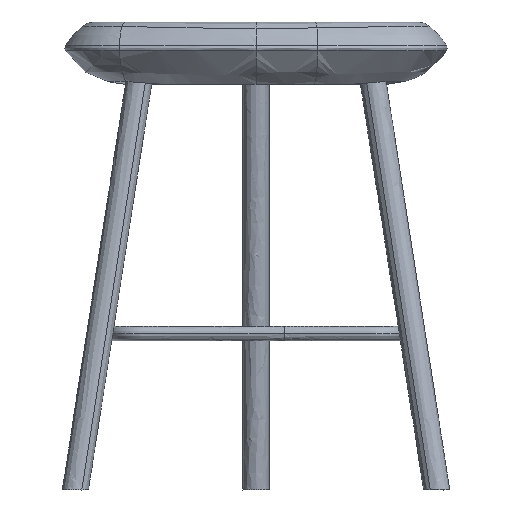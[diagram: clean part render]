
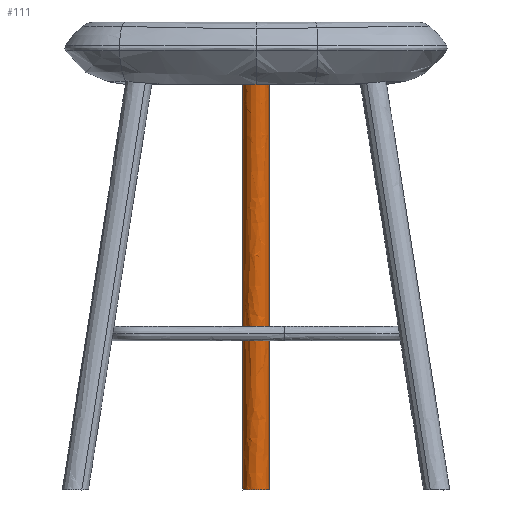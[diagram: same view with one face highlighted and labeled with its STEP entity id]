
A CAD part, front view. The second image highlights one B-rep face of the part: STEP entity #111.
In plain terms, the highlighted free-form (B-spline) face has degree [3, 2] with [4, 5] control points.
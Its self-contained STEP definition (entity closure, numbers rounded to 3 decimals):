
#40=B_SPLINE_CURVE_WITH_KNOTS($,3,(#3420,#3421,#3422,#3423,#3424,#3425,#3426,
#3427,#3428,#3429,#3430,#3431,#3432,#3433,#3434,#3435,#3436,#3437,#3438,
#3439,#3440,#3441,#3442,#3443,#3444,#3445,#3446,#3447,#3448,#3449,#3450,
#3451,#3452,#3453,#3454,#3455,#3456,#3457),.UNSPECIFIED.,.F.,.F.,(4,2,2,
2,2,2,2,2,2,2,2,2,2,2,2,2,2,2,4),(-79.169,-76.701,-74.23,
-71.757,-69.281,-66.808,-64.334,-61.855,
-60.614,-59.373,-56.903,-54.432,
-51.957,-49.48,-47.012,-44.541,
-42.068,-39.592,-39.589),.UNSPECIFIED.);
#41=B_SPLINE_CURVE_WITH_KNOTS($,3,(#3466,#3467,#3468,#3469,#3470,#3471,#3472,
#3473,#3474,#3475,#3476,#3477,#3478,#3479,#3480,#3481,#3482,#3483,#3484,
#3485,#3486,#3487,#3488,#3489,#3490,#3491,#3492,#3493,#3494,#3495,#3496,
#3497,#3498,#3499,#3500,#3501,#3502,#3503),.UNSPECIFIED.,.F.,.F.,(4,2,2,
2,2,2,2,2,2,2,2,2,2,2,2,2,2,2,4),(39.589,39.592,42.069,
44.541,47.012,49.48,51.957,54.431,
56.902,59.37,60.611,61.851,64.328,
66.8,69.27,71.749,74.225,76.699,
79.169),.UNSPECIFIED.);
#111=ADVANCED_FACE($,(#186),#883,.T.);
#186=FACE_OUTER_BOUND($,#261,.T.);
#261=EDGE_LOOP($,(#377,#378,#379,#380));
#377=ORIENTED_EDGE($,*,*,#657,.T.);
#378=ORIENTED_EDGE($,*,*,#655,.T.);
#379=ORIENTED_EDGE($,*,*,#654,.T.);
#380=ORIENTED_EDGE($,*,*,#656,.F.);
#654=EDGE_CURVE($,#799,#801,#40,.T.);
#655=EDGE_CURVE($,#798,#799,#945,.T.);
#656=EDGE_CURVE($,#800,#801,#946,.T.);
#657=EDGE_CURVE($,#800,#798,#41,.T.);
#798=VERTEX_POINT($,#3601);
#799=VERTEX_POINT($,#3602);
#800=VERTEX_POINT($,#3603);
#801=VERTEX_POINT($,#3604);
#883=(
BOUNDED_SURFACE()
B_SPLINE_SURFACE(3,2,((#3581,#3582,#3583,#3584,#3585),(#3586,#3587,#3588,
#3589,#3590),(#3591,#3592,#3593,#3594,#3595),(#3596,#3597,#3598,#3599,#3600)),
.UNSPECIFIED.,.F.,.F.,.F.)
B_SPLINE_SURFACE_WITH_KNOTS((4,4),(3,2,3),(213.216,635.221),
(-78.54,-58.905,-39.27),.UNSPECIFIED.)
GEOMETRIC_REPRESENTATION_ITEM()
RATIONAL_B_SPLINE_SURFACE(((1.,0.707,1.,0.707,1.),
(1.,0.707,1.,0.707,1.),(1.,0.707,1.,
0.707,1.),(1.,0.707,1.,0.707,1.)))
REPRESENTATION_ITEM($)
SURFACE()
);
#945=(
BOUNDED_CURVE()
B_SPLINE_CURVE(3,(#3458,#3459,#3460,#3461),.UNSPECIFIED.,.F.,.F.)
B_SPLINE_CURVE_WITH_KNOTS((4,4),(213.216,628.792),.UNSPECIFIED.)
CURVE()
GEOMETRIC_REPRESENTATION_ITEM()
RATIONAL_B_SPLINE_CURVE((1.,1.,1.,1.))
REPRESENTATION_ITEM($)
);
#946=(
BOUNDED_CURVE()
B_SPLINE_CURVE(3,(#3462,#3463,#3464,#3465),.UNSPECIFIED.,.F.,.F.)
B_SPLINE_CURVE_WITH_KNOTS((4,4),(213.216,628.792),.UNSPECIFIED.)
CURVE()
GEOMETRIC_REPRESENTATION_ITEM()
RATIONAL_B_SPLINE_CURVE((1.,1.,1.,1.))
REPRESENTATION_ITEM($)
);
#3420=CARTESIAN_POINT($,(120039.046,11023.604,395.));
#3421=CARTESIAN_POINT($,(120039.046,11022.781,395.));
#3422=CARTESIAN_POINT($,(120038.967,11021.959,395.));
#3423=CARTESIAN_POINT($,(120038.653,11020.341,395.));
#3424=CARTESIAN_POINT($,(120038.419,11019.549,395.));
#3425=CARTESIAN_POINT($,(120037.802,11018.019,395.));
#3426=CARTESIAN_POINT($,(120037.42,11017.285,395.));
#3427=CARTESIAN_POINT($,(120036.518,11015.901,395.));
#3428=CARTESIAN_POINT($,(120036.001,11015.255,395.));
#3429=CARTESIAN_POINT($,(120034.848,11014.073,395.));
#3430=CARTESIAN_POINT($,(120034.216,11013.54,395.));
#3431=CARTESIAN_POINT($,(120032.854,11012.607,395.));
#3432=CARTESIAN_POINT($,(120032.128,11012.209,395.));
#3433=CARTESIAN_POINT($,(120030.607,11011.563,395.));
#3434=CARTESIAN_POINT($,(120029.816,11011.316,395.));
#3435=CARTESIAN_POINT($,(120028.599,11011.068,395.));
#3436=CARTESIAN_POINT($,(120028.192,11011.006,395.));
#3437=CARTESIAN_POINT($,(120027.367,11010.923,395.));
#3438=CARTESIAN_POINT($,(120026.956,11010.903,395.));
#3439=CARTESIAN_POINT($,(120025.717,11010.903,395.));
#3440=CARTESIAN_POINT($,(120024.896,11010.986,395.));
#3441=CARTESIAN_POINT($,(120023.28,11011.315,395.));
#3442=CARTESIAN_POINT($,(120022.49,11011.561,395.));
#3443=CARTESIAN_POINT($,(120020.971,11012.205,395.));
#3444=CARTESIAN_POINT($,(120020.245,11012.603,395.));
#3445=CARTESIAN_POINT($,(120018.881,11013.536,395.));
#3446=CARTESIAN_POINT($,(120018.247,11014.069,395.));
#3447=CARTESIAN_POINT($,(120017.094,11015.25,395.));
#3448=CARTESIAN_POINT($,(120016.578,11015.895,395.));
#3449=CARTESIAN_POINT($,(120015.678,11017.275,395.));
#3450=CARTESIAN_POINT($,(120015.295,11018.007,395.));
#3451=CARTESIAN_POINT($,(120014.676,11019.536,395.));
#3452=CARTESIAN_POINT($,(120014.441,11020.329,395.));
#3453=CARTESIAN_POINT($,(120014.126,11021.95,395.));
#3454=CARTESIAN_POINT($,(120014.046,11022.774,395.));
#3455=CARTESIAN_POINT($,(120014.046,11023.602,395.));
#3456=CARTESIAN_POINT($,(120014.046,11023.603,395.));
#3457=CARTESIAN_POINT($,(120014.046,11023.604,395.));
#3458=CARTESIAN_POINT($,(120039.046,11097.244,-14.));
#3459=CARTESIAN_POINT($,(120039.046,11072.697,122.333));
#3460=CARTESIAN_POINT($,(120039.046,11048.151,258.667));
#3461=CARTESIAN_POINT($,(120039.046,11023.604,395.));
#3462=CARTESIAN_POINT($,(120014.046,11097.244,-14.));
#3463=CARTESIAN_POINT($,(120014.046,11072.697,122.333));
#3464=CARTESIAN_POINT($,(120014.046,11048.151,258.667));
#3465=CARTESIAN_POINT($,(120014.046,11023.604,395.));
#3466=CARTESIAN_POINT($,(120014.046,11097.244,-14.));
#3467=CARTESIAN_POINT($,(120014.046,11097.243,-14.));
#3468=CARTESIAN_POINT($,(120014.046,11097.242,-14.));
#3469=CARTESIAN_POINT($,(120014.046,11096.414,-14.));
#3470=CARTESIAN_POINT($,(120014.126,11095.59,-14.));
#3471=CARTESIAN_POINT($,(120014.441,11093.969,-14.));
#3472=CARTESIAN_POINT($,(120014.676,11093.176,-14.));
#3473=CARTESIAN_POINT($,(120015.295,11091.647,-14.));
#3474=CARTESIAN_POINT($,(120015.678,11090.914,-14.));
#3475=CARTESIAN_POINT($,(120016.579,11089.535,-14.));
#3476=CARTESIAN_POINT($,(120017.095,11088.89,-14.));
#3477=CARTESIAN_POINT($,(120018.247,11087.709,-14.));
#3478=CARTESIAN_POINT($,(120018.881,11087.176,-14.));
#3479=CARTESIAN_POINT($,(120020.244,11086.243,-14.));
#3480=CARTESIAN_POINT($,(120020.97,11085.846,-14.));
#3481=CARTESIAN_POINT($,(120022.489,11085.201,-14.));
#3482=CARTESIAN_POINT($,(120023.279,11084.956,-14.));
#3483=CARTESIAN_POINT($,(120024.894,11084.627,-14.));
#3484=CARTESIAN_POINT($,(120025.715,11084.543,-14.));
#3485=CARTESIAN_POINT($,(120026.953,11084.543,-14.));
#3486=CARTESIAN_POINT($,(120027.364,11084.563,-14.));
#3487=CARTESIAN_POINT($,(120028.188,11084.646,-14.));
#3488=CARTESIAN_POINT($,(120028.595,11084.708,-14.));
#3489=CARTESIAN_POINT($,(120029.811,11084.955,-14.));
#3490=CARTESIAN_POINT($,(120030.601,11085.201,-14.));
#3491=CARTESIAN_POINT($,(120032.122,11085.846,-14.));
#3492=CARTESIAN_POINT($,(120032.847,11086.243,-14.));
#3493=CARTESIAN_POINT($,(120034.208,11087.175,-14.));
#3494=CARTESIAN_POINT($,(120034.841,11087.706,-14.));
#3495=CARTESIAN_POINT($,(120035.995,11088.887,-14.));
#3496=CARTESIAN_POINT($,(120036.513,11089.535,-14.));
#3497=CARTESIAN_POINT($,(120037.416,11090.919,-14.));
#3498=CARTESIAN_POINT($,(120037.799,11091.654,-14.));
#3499=CARTESIAN_POINT($,(120038.418,11093.185,-14.));
#3500=CARTESIAN_POINT($,(120038.653,11093.978,-14.));
#3501=CARTESIAN_POINT($,(120038.967,11095.597,-14.));
#3502=CARTESIAN_POINT($,(120039.046,11096.42,-14.));
#3503=CARTESIAN_POINT($,(120039.046,11097.244,-14.));
#3581=CARTESIAN_POINT($,(120039.046,11097.244,-14.));
#3582=CARTESIAN_POINT($,(120039.046,11084.942,-16.215));
#3583=CARTESIAN_POINT($,(120026.546,11084.942,-16.215));
#3584=CARTESIAN_POINT($,(120014.046,11084.942,-16.215));
#3585=CARTESIAN_POINT($,(120014.046,11097.244,-14.));
#3586=CARTESIAN_POINT($,(120039.046,11072.317,124.442));
#3587=CARTESIAN_POINT($,(120039.046,11060.015,122.227));
#3588=CARTESIAN_POINT($,(120026.546,11060.015,122.227));
#3589=CARTESIAN_POINT($,(120014.046,11060.015,122.227));
#3590=CARTESIAN_POINT($,(120014.046,11072.317,124.442));
#3591=CARTESIAN_POINT($,(120039.046,11047.391,262.885));
#3592=CARTESIAN_POINT($,(120039.046,11035.089,260.67));
#3593=CARTESIAN_POINT($,(120026.546,11035.089,260.67));
#3594=CARTESIAN_POINT($,(120014.046,11035.089,260.67));
#3595=CARTESIAN_POINT($,(120014.046,11047.391,262.885));
#3596=CARTESIAN_POINT($,(120039.046,11022.465,401.327));
#3597=CARTESIAN_POINT($,(120039.046,11010.162,399.112));
#3598=CARTESIAN_POINT($,(120026.546,11010.162,399.112));
#3599=CARTESIAN_POINT($,(120014.046,11010.162,399.112));
#3600=CARTESIAN_POINT($,(120014.046,11022.465,401.327));
#3601=CARTESIAN_POINT($,(120039.046,11097.244,-14.));
#3602=CARTESIAN_POINT($,(120039.046,11023.604,395.));
#3603=CARTESIAN_POINT($,(120014.046,11097.244,-14.));
#3604=CARTESIAN_POINT($,(120014.046,11023.604,395.));
